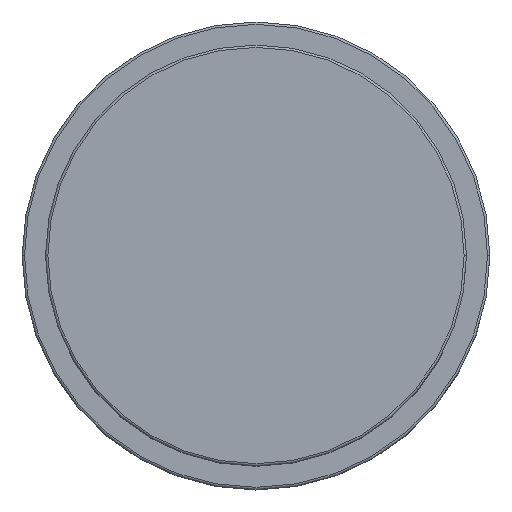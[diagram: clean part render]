
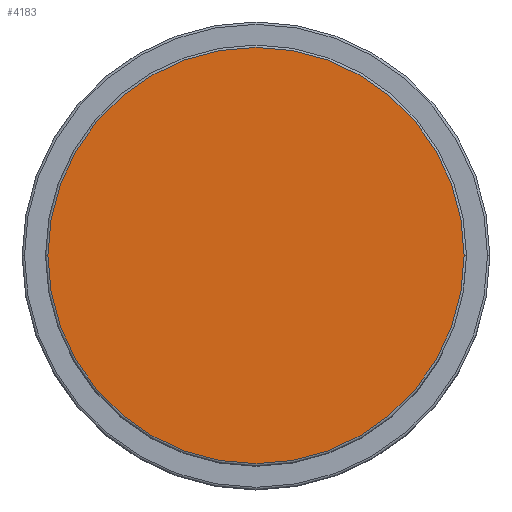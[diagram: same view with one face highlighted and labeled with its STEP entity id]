
A CAD part, top view. The second image highlights one B-rep face of the part: STEP entity #4183.
In plain terms, the highlighted planar face has unit normal (0, 0, 1).
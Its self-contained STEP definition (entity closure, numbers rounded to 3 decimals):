
#19 = CIRCLE ( 'NONE', #689, 44.5 ) ;
#106 = DIRECTION ( 'NONE',  ( 0., 0., 1. ) ) ;
#274 = VERTEX_POINT ( 'NONE', #5626 ) ;
#394 = DIRECTION ( 'NONE',  ( 1., 0., 0. ) ) ;
#440 = FACE_OUTER_BOUND ( 'NONE', #3243, .T. ) ;
#689 = AXIS2_PLACEMENT_3D ( 'NONE', #6469, #3722, #984 ) ;
#943 = ORIENTED_EDGE ( 'NONE', *, *, #5642, .T. ) ;
#984 = DIRECTION ( 'NONE',  ( 1., 0., 0. ) ) ;
#1483 = CARTESIAN_POINT ( 'NONE',  ( 0., 0., 57. ) ) ;
#3243 = EDGE_LOOP ( 'NONE', ( #943, #5557 ) ) ;
#3482 = DIRECTION ( 'NONE',  ( 1., 0., 0. ) ) ;
#3502 = CARTESIAN_POINT ( 'NONE',  ( 0., 0., 57. ) ) ;
#3722 = DIRECTION ( 'NONE',  ( 0., 0., 1. ) ) ;
#4183 = ADVANCED_FACE ( 'NONE', ( #440 ), #5925, .T. ) ;
#4741 = EDGE_CURVE ( 'NONE', #5600, #274, #4982, .T. ) ;
#4982 = CIRCLE ( 'NONE', #5067, 44.5 ) ;
#5067 = AXIS2_PLACEMENT_3D ( 'NONE', #3502, #106, #3482 ) ;
#5340 = DIRECTION ( 'NONE',  ( 0., 0., 1. ) ) ;
#5557 = ORIENTED_EDGE ( 'NONE', *, *, #4741, .T. ) ;
#5600 = VERTEX_POINT ( 'NONE', #6446 ) ;
#5626 = CARTESIAN_POINT ( 'NONE',  ( 44.5, 0., 57. ) ) ;
#5642 = EDGE_CURVE ( 'NONE', #274, #5600, #19, .T. ) ;
#5925 = PLANE ( 'NONE',  #6315 ) ;
#6315 = AXIS2_PLACEMENT_3D ( 'NONE', #1483, #5340, #394 ) ;
#6446 = CARTESIAN_POINT ( 'NONE',  ( -44.5, 0., 57. ) ) ;
#6469 = CARTESIAN_POINT ( 'NONE',  ( 0., 0., 57. ) ) ;
